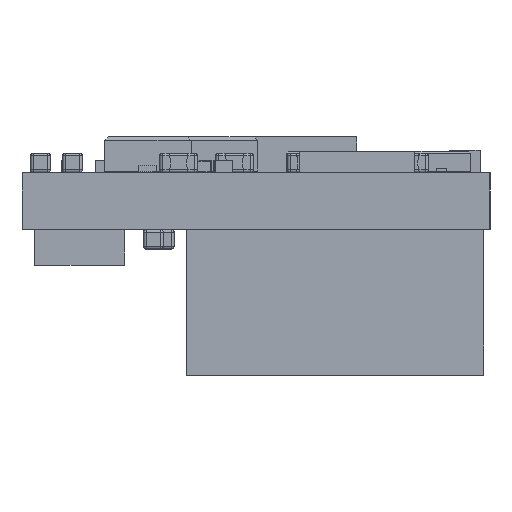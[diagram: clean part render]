
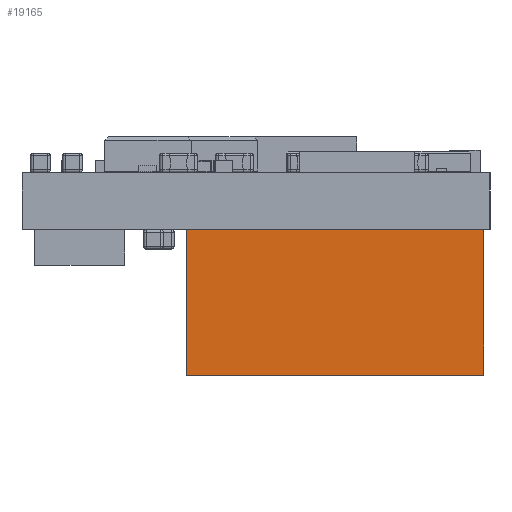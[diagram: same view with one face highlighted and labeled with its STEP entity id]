
A CAD part, left-side view. The second image highlights one B-rep face of the part: STEP entity #19165.
In plain terms, the highlighted planar face has unit normal (-1, 0, 0) as drawn and (0, 1, 0) by its records, which use the part's own axes.
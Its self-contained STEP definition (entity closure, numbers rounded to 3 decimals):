
#1412=PLANE('',#20776);
#2426=FACE_OUTER_BOUND('',#3572,.T.);
#3572=EDGE_LOOP('',(#17013,#17014,#17015,#17016));
#5406=LINE('',#33008,#7256);
#5407=LINE('',#33011,#7257);
#5408=LINE('',#33013,#7258);
#5409=LINE('',#33014,#7259);
#7256=VECTOR('',#25457,10.);
#7257=VECTOR('',#25460,10.);
#7258=VECTOR('',#25461,10.);
#7259=VECTOR('',#25462,10.);
#9345=VERTEX_POINT('',#33002);
#9347=VERTEX_POINT('',#33006);
#9348=VERTEX_POINT('',#33010);
#9349=VERTEX_POINT('',#33012);
#11906=EDGE_CURVE('',#9345,#9347,#5406,.T.);
#11907=EDGE_CURVE('',#9345,#9348,#5407,.T.);
#11908=EDGE_CURVE('',#9349,#9347,#5408,.T.);
#11909=EDGE_CURVE('',#9348,#9349,#5409,.T.);
#17013=ORIENTED_EDGE('',*,*,#11907,.F.);
#17014=ORIENTED_EDGE('',*,*,#11906,.T.);
#17015=ORIENTED_EDGE('',*,*,#11908,.F.);
#17016=ORIENTED_EDGE('',*,*,#11909,.F.);
#19165=ADVANCED_FACE('',(#2426),#1412,.T.);
#20776=AXIS2_PLACEMENT_3D('',#33009,#25458,#25459);
#25457=DIRECTION('',(0.,0.,1.));
#25458=DIRECTION('center_axis',(0.,1.,0.));
#25459=DIRECTION('ref_axis',(-1.,0.,0.));
#25460=DIRECTION('',(1.,0.,0.));
#25461=DIRECTION('',(-1.,0.,0.));
#25462=DIRECTION('',(0.,0.,1.));
#33002=CARTESIAN_POINT('',(-4.125,2.125,0.));
#33006=CARTESIAN_POINT('',(-4.125,2.125,4.05));
#33008=CARTESIAN_POINT('',(-4.125,2.125,0.));
#33009=CARTESIAN_POINT('Origin',(4.125,2.125,0.));
#33010=CARTESIAN_POINT('',(4.125,2.125,0.));
#33011=CARTESIAN_POINT('',(-4.125,2.125,0.));
#33012=CARTESIAN_POINT('',(4.125,2.125,4.05));
#33013=CARTESIAN_POINT('',(-4.125,2.125,4.05));
#33014=CARTESIAN_POINT('',(4.125,2.125,0.));
